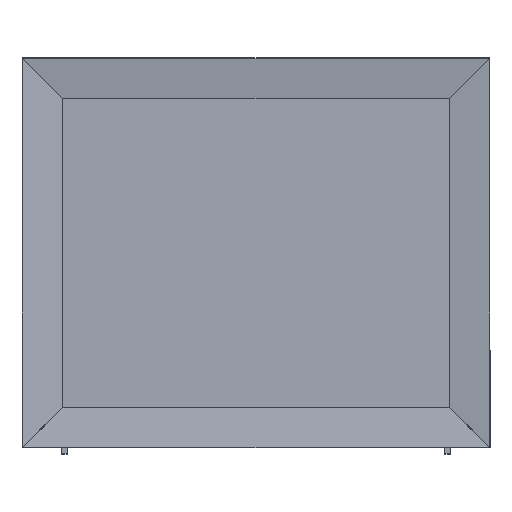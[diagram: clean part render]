
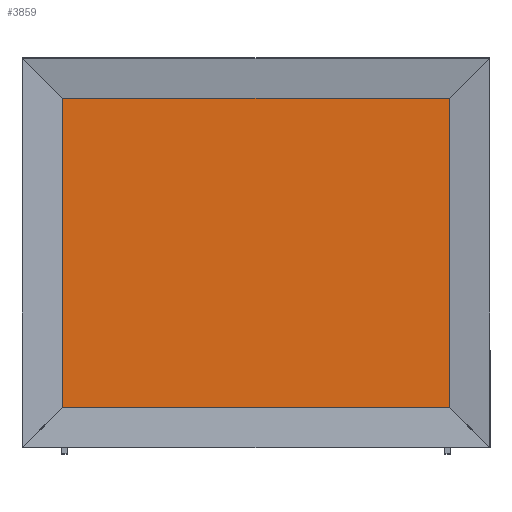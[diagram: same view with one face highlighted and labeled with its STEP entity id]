
A CAD part, top view. The second image highlights one B-rep face of the part: STEP entity #3859.
In plain terms, the highlighted planar face has unit normal (0, 0, 1).
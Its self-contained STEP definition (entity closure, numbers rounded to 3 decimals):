
#3285=CARTESIAN_POINT('',(-994.0,-794.,6.601));
#3286=VERTEX_POINT('',#3285);
#3393=CARTESIAN_POINT('',(-994.,794.,6.601));
#3394=VERTEX_POINT('',#3393);
#3395=CARTESIAN_POINT('',(-994.0,-794.,6.601));
#3396=DIRECTION('',(0.0,1.0,0.0));
#3397=VECTOR('',#3396,1588.0);
#3398=LINE('',#3395,#3397);
#3399=EDGE_CURVE('',#3286,#3394,#3398,.T.);
#3417=CARTESIAN_POINT('',(994.,-794.,6.601));
#3418=VERTEX_POINT('',#3417);
#3426=CARTESIAN_POINT('',(994.,-794.,6.601));
#3427=DIRECTION('',(-1.0,0.0,0.0));
#3428=VECTOR('',#3427,1988.);
#3429=LINE('',#3426,#3428);
#3430=EDGE_CURVE('',#3418,#3286,#3429,.T.);
#3541=CARTESIAN_POINT('',(994.0,794.,6.601));
#3542=VERTEX_POINT('',#3541);
#3550=CARTESIAN_POINT('',(994.0,794.,6.601));
#3551=DIRECTION('',(0.0,-1.0,0.0));
#3552=VECTOR('',#3551,1588.);
#3553=LINE('',#3550,#3552);
#3554=EDGE_CURVE('',#3542,#3418,#3553,.T.);
#3780=CARTESIAN_POINT('',(-994.,794.,6.601));
#3781=DIRECTION('',(1.0,0.0,0.0));
#3782=VECTOR('',#3781,1988.);
#3783=LINE('',#3780,#3782);
#3784=EDGE_CURVE('',#3394,#3542,#3783,.T.);
#3848=CARTESIAN_POINT('',(0.,0.,6.601));
#3849=DIRECTION('',(0.0,0.0,1.0));
#3850=DIRECTION('',(1.0,0.0,0.0));
#3851=AXIS2_PLACEMENT_3D('',#3848,#3849,#3850);
#3852=PLANE('',#3851);
#3853=ORIENTED_EDGE('',*,*,#3784,.F.);
#3854=ORIENTED_EDGE('',*,*,#3399,.F.);
#3855=ORIENTED_EDGE('',*,*,#3430,.F.);
#3856=ORIENTED_EDGE('',*,*,#3554,.F.);
#3857=EDGE_LOOP('',(#3853,#3854,#3855,#3856));
#3858=FACE_OUTER_BOUND('',#3857,.T.);
#3859=ADVANCED_FACE('',(#3858),#3852,.T.);
